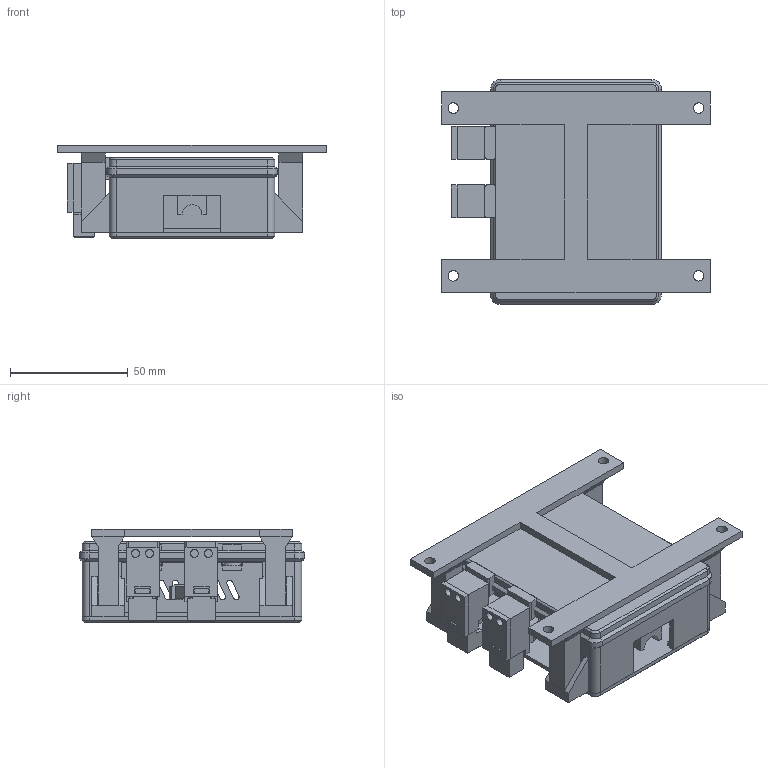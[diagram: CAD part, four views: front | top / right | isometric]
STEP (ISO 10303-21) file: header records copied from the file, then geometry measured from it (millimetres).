
FILE_DESCRIPTION(('SolidCraft model'),'2;1');
FILE_NAME('pcb_length-high-native.step','',(''),(''),'SolidCraft','SolidCraft','');
FILE_SCHEMA(('AP242_MANAGED_MODEL_BASED_3D_ENGINEERING_MIM_LF { 1 0 10303 442 1 1 4 }'));
Length unit declared in the file: millimetre
Products named in the file (1): pcb_length-high-native
Bounding box: 114.3 x 95.7 x 39.6 mm (x, y, z)
Volume: 96051.7 mm3; surface area: 79100.2 mm2
Topology: 26 solids, 26 shells, 690 faces, 1831 edges, 1234 vertices
Faces by surface type: plane 546, cylinder 124, cone 16, bspline 4
Full cylindrical faces by diameter (mm): 3.4 x22, 4 x19, 4.5 x4
Entity records: 17686 total; most frequent: CARTESIAN_POINT 3829, ORIENTED_EDGE 3662, EDGE_CURVE 1831, LINE 1433, VERTEX_POINT 1234, DIRECTION 1022, VECTOR 910, EDGE_LOOP 829
